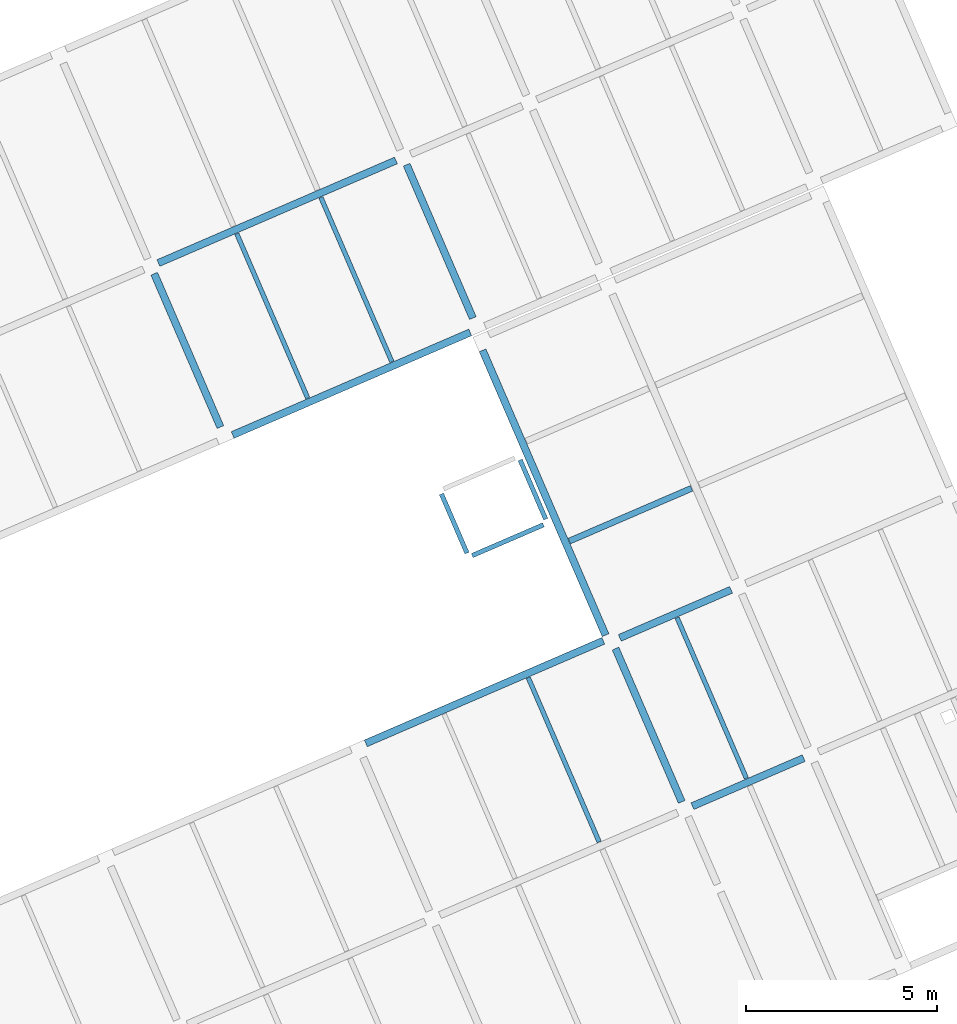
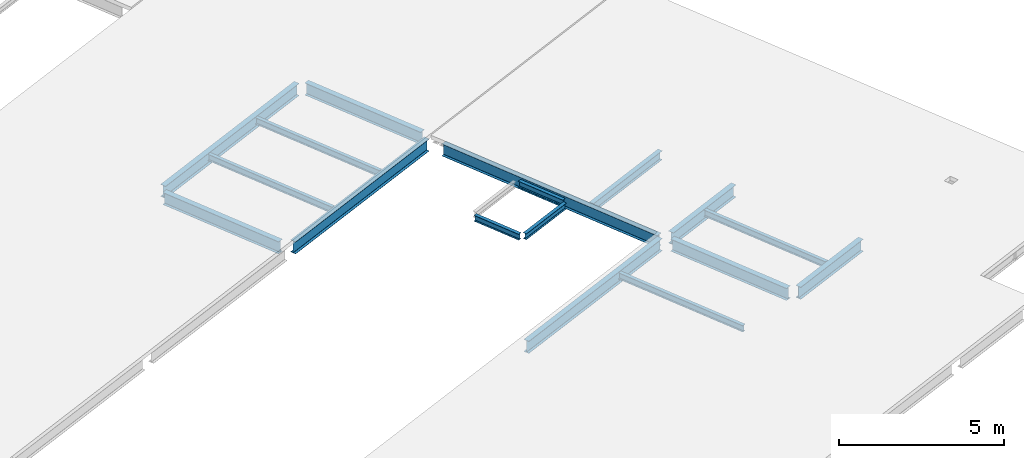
# One storey, part 6 of 15: 17 beams.
"""IFC4 building model written with IfcOpenShell, lengths in metres."""

from ifc_helpers import new_model, entity, si_unit, converted_unit, derived_unit, direction, frame, origin, place, context, subcontext, project, spatial, line, arc, indexed_curve, outline, extrude, source, transform, mapped, material, type_object, type_shapes, element, save


model = new_model("IFC4")

# Units and contexts
model_context = context("Model", 3, precision=1e-05, world=origin(), true_north=direction((6.12323399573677e-17, 1.0)))
body_context = subcontext(model_context, "Body", "Model", "MODEL_VIEW")
ifc_project = project(units=[si_unit("LENGTHUNIT", "METRE"), si_unit("AREAUNIT", "SQUARE_METRE"), si_unit("VOLUMEUNIT", "CUBIC_METRE"), converted_unit("PLANEANGLEUNIT", "DEGREE", entity("IfcPlaneAngleMeasure", 0.0174532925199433), si_unit("PLANEANGLEUNIT", "RADIAN"), dimensions=[0, 0, 0, 0, 0, 0, 0]), si_unit("MASSUNIT", "GRAM", prefix="KILO"), derived_unit("MOMENTOFINERTIAUNIT", [(si_unit("LENGTHUNIT", "METRE"), 4)]), derived_unit("LINEARFORCEUNIT", [(si_unit("MASSUNIT", "GRAM", prefix="KILO"), 1), (si_unit("TIMEUNIT", "SECOND"), -2)]), derived_unit("WARPINGCONSTANTUNIT", [(si_unit("LENGTHUNIT", "METRE"), 6)]), derived_unit("THERMALTRANSMITTANCEUNIT", [(si_unit("MASSUNIT", "GRAM", prefix="KILO"), 1), (si_unit("THERMODYNAMICTEMPERATUREUNIT", "KELVIN"), -1), (si_unit("TIMEUNIT", "SECOND"), -3)]), derived_unit("USERDEFINED", [(si_unit("MASSUNIT", "GRAM", prefix="KILO"), 1), (si_unit("TIMEUNIT", "SECOND"), -2), (si_unit("THERMODYNAMICTEMPERATUREUNIT", "KELVIN"), -1)]), derived_unit("THERMALRESISTANCEUNIT", [(si_unit("MASSUNIT", "GRAM", prefix="KILO"), -1), (si_unit("TIMEUNIT", "SECOND"), 3), (si_unit("THERMODYNAMICTEMPERATUREUNIT", "KELVIN"), 1)])], contexts=[model_context])

# Site, building, storey
site_placement = place(None, origin())
site = spatial("IfcSite", under=ifc_project, at=site_placement, Name="Default", CompositionType="ELEMENT")
building_placement = place(site_placement, frame((12.6613425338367, -82.5732315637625, 317.15), z_axis=(0.0, 0.0, 1.0), x_axis=(-0.396377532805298, 0.918087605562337, 0.0)))
building = spatial("IfcBuilding", under=site, at=building_placement, Name="CESFAM Coyhaique", CompositionType="ELEMENT")
storey_placement = place(building_placement, frame((0.0, 0.0, 8.45000000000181)))
storey = spatial("IfcBuildingStorey", under=building, at=storey_placement, Name="Nivel 3", CompositionType="ELEMENT", Elevation=8.45000000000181)

# Beams
ifc_material = material(Name="Steel, 45-345", Category="Metal")
beam_type_1 = type_object("IfcBeamType", Name="M_W Shapes:W450X190mm", PredefinedType="BEAM", material=ifc_material)
shared_shape_1 = source(origin(), body_context, "Body", "SweptSolid", [
    extrude(outline(indexed_curve([(-0.224999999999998, -0.0949999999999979), (-0.215349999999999, -0.0949999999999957), (-0.215349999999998, -0.0105699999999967), (-0.213109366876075, -0.00516063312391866), (-0.207699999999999, -0.0029199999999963), (0.207700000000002, -0.0029199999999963), (0.213109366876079, -0.00516063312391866), (0.215350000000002, -0.0105699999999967), (0.215350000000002, -0.0949999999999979), (0.225000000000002, -0.0949999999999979), (0.225000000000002, 0.0950000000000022), (0.215350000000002, 0.0950000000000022), (0.215350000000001, 0.0105700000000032), (0.213109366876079, 0.00516063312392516), (0.207700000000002, 0.0029200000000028), (-0.207699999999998, 0.0029200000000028), (-0.213109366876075, 0.00516063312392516), (-0.215349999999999, 0.0105700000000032), (-0.215349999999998, 0.0950000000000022), (-0.224999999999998, 0.0950000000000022)], segments=[line(1, 2, 3), arc(3, 4, 5), line(5, 6), arc(6, 7, 8), line(8, 9, 10, 11, 12, 13), arc(13, 14, 15), line(15, 16), arc(16, 17, 18), line(18, 19, 20, 1)], self_intersect=False)), frame((10.3815534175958, -11.5971495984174, 8.07500000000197), z_axis=(1.0, 0.0, 0.0), x_axis=(0.0, 0.0, -1.0)), (0.0, 0.0, 1.0), 4.3746),
])
type_shapes(beam_type_1, [shared_shape_1])
beam_1_placement = place(storey_placement, frame((0.0, 0.0, -8.45000000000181)))
element("IfcBeam", 1, at=beam_1_placement, inside=storey, type_object=beam_type_1, Name="M_W Shapes:W450X190mm", ObjectType="M_W Shapes:W450X190mm", PredefinedType="BEAM", context=body_context, shape_type="MappedRepresentation", body=[
    mapped(shared_shape_1, transform((0.0, 0.0, 0.0), scale=1.0)),
])
beam_type_2 = type_object("IfcBeamType", Name="M_W Shapes:W450X190mm", PredefinedType="BEAM", material=ifc_material)
shared_shape_2 = source(origin(), body_context, "Body", "SweptSolid", [
    extrude(outline(indexed_curve([(-0.224999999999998, -0.0950000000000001), (-0.215349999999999, -0.0949999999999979), (-0.215349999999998, -0.0105699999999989), (-0.213109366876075, -0.00516063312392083), (-0.207699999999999, -0.00291999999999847), (0.207700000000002, -0.00291999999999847), (0.213109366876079, -0.00516063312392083), (0.215350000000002, -0.0105699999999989), (0.215350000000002, -0.0950000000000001), (0.225000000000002, -0.0950000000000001), (0.225000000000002, 0.0950000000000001), (0.215350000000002, 0.0950000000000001), (0.215350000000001, 0.0105700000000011), (0.213109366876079, 0.00516063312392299), (0.207700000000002, 0.00292000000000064), (-0.207699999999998, 0.00292000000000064), (-0.213109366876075, 0.00516063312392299), (-0.215349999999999, 0.0105700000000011), (-0.215349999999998, 0.0950000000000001), (-0.224999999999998, 0.0950000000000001)], segments=[line(1, 2, 3), arc(3, 4, 5), line(5, 6), arc(6, 7, 8), line(8, 9, 10, 11, 12, 13), arc(13, 14, 15), line(15, 16), arc(16, 17, 18), line(18, 19, 20, 1)], self_intersect=False)), frame((15.1815534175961, -11.4971495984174, 8.07500000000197), z_axis=(1.0, 0.0, 0.0), x_axis=(0.0, 0.0, -1.0)), (0.0, 0.0, 1.0), 8.1246),
])
type_shapes(beam_type_2, [shared_shape_2])
beam_2_placement = place(storey_placement, frame((0.0, 0.0, -8.45000000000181)))
element("IfcBeam", 2, at=beam_2_placement, inside=storey, type_object=beam_type_2, Name="M_W Shapes:W450X190mm", ObjectType="M_W Shapes:W450X190mm", PredefinedType="BEAM", context=body_context, shape_type="MappedRepresentation", body=[
    mapped(shared_shape_2, transform((0.0, 0.0, 0.0), scale=1.0)),
])
beam_type_3 = type_object("IfcBeamType", Name="M_W Shapes:W450X190mm", PredefinedType="BEAM", material=ifc_material)
shared_shape_3 = source(origin(), body_context, "Body", "SweptSolid", [
    extrude(outline(indexed_curve([(-0.224999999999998, -0.0949999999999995), (-0.215349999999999, -0.0949999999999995), (-0.215349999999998, -0.0105699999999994), (-0.213109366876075, -0.00516063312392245), (-0.207699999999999, -0.00291999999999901), (0.207700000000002, -0.00291999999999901), (0.213109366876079, -0.00516063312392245), (0.215350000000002, -0.0105699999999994), (0.215350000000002, -0.0949999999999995), (0.225000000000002, -0.0949999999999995), (0.225000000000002, 0.0950000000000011), (0.215350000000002, 0.0950000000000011), (0.215350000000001, 0.0105700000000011), (0.213109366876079, 0.00516063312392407), (0.207700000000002, 0.00292000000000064), (-0.207699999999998, 0.00292000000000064), (-0.213109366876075, 0.00516063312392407), (-0.215349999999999, 0.0105700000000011), (-0.215349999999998, 0.0950000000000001), (-0.224999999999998, 0.0950000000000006)], segments=[line(1, 2, 3), arc(3, 4, 5), line(5, 6), arc(6, 7, 8), line(8, 9, 10, 11, 12, 13), arc(13, 14, 15), line(15, 16), arc(16, 17, 18), line(18, 19, 20, 1)], self_intersect=False)), frame((24.1815534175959, -4.39714959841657, 8.07500000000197), z_axis=(1.0, 0.0, 0.0), x_axis=(0.0, 0.0, -1.0)), (0.0, 0.0, 1.0), 4.3746),
])
type_shapes(beam_type_3, [shared_shape_3])
beam_3_placement = place(storey_placement, frame((0.0, 0.0, -8.45000000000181)))
element("IfcBeam", 3, at=beam_3_placement, inside=storey, type_object=beam_type_3, Name="M_W Shapes:W450X190mm", ObjectType="M_W Shapes:W450X190mm", PredefinedType="BEAM", context=body_context, shape_type="MappedRepresentation", body=[
    mapped(shared_shape_3, transform((0.0, 0.0, 0.0), scale=1.0)),
])
beam_type_4 = type_object("IfcBeamType", Name="M_W Shapes:W450X190mm", PredefinedType="BEAM", material=ifc_material)
shared_shape_4 = source(origin(), body_context, "Body", "SweptSolid", [
    extrude(outline(indexed_curve([(-0.224999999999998, -0.0949999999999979), (-0.215349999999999, -0.0949999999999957), (-0.215349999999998, -0.0105699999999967), (-0.213109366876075, -0.00516063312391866), (-0.207699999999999, -0.0029199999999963), (0.207700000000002, -0.0029199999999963), (0.213109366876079, -0.00516063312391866), (0.215350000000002, -0.0105699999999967), (0.215350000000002, -0.0949999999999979), (0.225000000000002, -0.0949999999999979), (0.225000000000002, 0.0950000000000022), (0.215350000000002, 0.0950000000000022), (0.215350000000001, 0.0105700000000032), (0.213109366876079, 0.00516063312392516), (0.207700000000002, 0.0029200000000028), (-0.207699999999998, 0.0029200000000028), (-0.213109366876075, 0.00516063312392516), (-0.215349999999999, 0.0105700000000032), (-0.215349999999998, 0.0950000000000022), (-0.224999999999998, 0.0950000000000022)], segments=[line(1, 2, 3), arc(3, 4, 5), line(5, 6), arc(6, 7, 8), line(8, 9, 10, 11, 12, 13), arc(13, 14, 15), line(15, 16), arc(16, 17, 18), line(18, 19, 20, 1)], self_intersect=False)), frame((24.1815534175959, -11.5971495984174, 8.07500000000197), z_axis=(1.0, 0.0, 0.0), x_axis=(0.0, 0.0, -1.0)), (0.0, 0.0, 1.0), 4.3746),
])
type_shapes(beam_type_4, [shared_shape_4])
beam_4_placement = place(storey_placement, frame((0.0, 0.0, -8.45000000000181)))
element("IfcBeam", 4, at=beam_4_placement, inside=storey, type_object=beam_type_4, Name="M_W Shapes:W450X190mm", ObjectType="M_W Shapes:W450X190mm", PredefinedType="BEAM", context=body_context, shape_type="MappedRepresentation", body=[
    mapped(shared_shape_4, transform((0.0, 0.0, 0.0), scale=1.0)),
])
beam_type_5 = type_object("IfcBeamType", Name="M_W Shapes:W450X190mm", PredefinedType="BEAM", material=ifc_material)
shared_shape_5 = source(origin(), body_context, "Body", "SweptSolid", [
    extrude(outline(indexed_curve([(-0.0950000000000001, -0.225000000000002), (0.0950000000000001, -0.225000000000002), (0.0950000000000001, -0.215350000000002), (0.0105700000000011, -0.215350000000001), (0.00516063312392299, -0.213109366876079), (0.00292000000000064, -0.207700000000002), (0.00292000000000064, 0.207699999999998), (0.00516063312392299, 0.213109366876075), (0.0105700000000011, 0.215349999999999), (0.0950000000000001, 0.215349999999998), (0.0950000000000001, 0.224999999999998), (-0.0950000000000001, 0.224999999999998), (-0.0949999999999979, 0.215349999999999), (-0.0105699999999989, 0.215349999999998), (-0.00516063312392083, 0.213109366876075), (-0.00291999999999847, 0.207699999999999), (-0.00291999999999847, -0.207700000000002), (-0.00516063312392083, -0.213109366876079), (-0.0105699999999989, -0.215350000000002), (-0.0950000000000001, -0.215350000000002)], segments=[line(1, 2, 3, 4), arc(4, 5, 6), line(6, 7), arc(7, 8, 9), line(9, 10, 11, 12, 13, 14), arc(14, 15, 16), line(16, 17), arc(17, 18, 19), line(19, 20, 1)], self_intersect=False)), frame((15.0688534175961, -11.384449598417, 8.07500000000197), z_axis=(0.0, 1.0, 0.0), x_axis=(-1.0, 0.0, 0.0)), (0.0, 0.0, 1.0), 6.7746),
])
type_shapes(beam_type_5, [shared_shape_5])
beam_5_placement = place(storey_placement, frame((0.0, 0.0, -8.45000000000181)))
element("IfcBeam", 5, at=beam_5_placement, inside=storey, type_object=beam_type_5, Name="M_W Shapes:W450X190mm", ObjectType="M_W Shapes:W450X190mm", PredefinedType="BEAM", context=body_context, shape_type="MappedRepresentation", body=[
    mapped(shared_shape_5, transform((0.0, 0.0, 0.0), scale=1.0)),
])
beam_type_6 = type_object("IfcBeamType", Name="M_W Shapes:W450X190mm", PredefinedType="BEAM", material=ifc_material)
shared_shape_6 = source(origin(), body_context, "Body", "SweptSolid", [
    extrude(outline(indexed_curve([(-0.0950000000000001, -0.225000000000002), (0.0950000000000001, -0.225000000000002), (0.0950000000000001, -0.215350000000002), (0.0105700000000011, -0.215350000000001), (0.00516063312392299, -0.213109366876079), (0.00292000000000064, -0.207700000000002), (0.00292000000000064, 0.207699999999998), (0.00516063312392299, 0.213109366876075), (0.0105700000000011, 0.215349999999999), (0.0950000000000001, 0.215349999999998), (0.0950000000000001, 0.224999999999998), (-0.0950000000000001, 0.224999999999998), (-0.0949999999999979, 0.215349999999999), (-0.0105699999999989, 0.215349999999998), (-0.00516063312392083, 0.213109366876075), (-0.00291999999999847, 0.207699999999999), (-0.00291999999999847, -0.207700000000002), (-0.00516063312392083, -0.213109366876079), (-0.0105699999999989, -0.215350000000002), (-0.0950000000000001, -0.215350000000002)], segments=[line(1, 2, 3, 4), arc(4, 5, 6), line(6, 7), arc(7, 8, 9), line(9, 10, 11, 12, 13, 14), arc(14, 15, 16), line(16, 17), arc(17, 18, 19), line(19, 20, 1)], self_intersect=False)), frame((10.1688534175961, -14.9844495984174, 8.07500000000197), z_axis=(0.0, 1.0, 0.0), x_axis=(-1.0, 0.0, 0.0)), (0.0, 0.0, 1.0), 3.1746),
])
type_shapes(beam_type_6, [shared_shape_6])
beam_6_placement = place(storey_placement, frame((0.0, 0.0, -8.45000000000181)))
element("IfcBeam", 6, at=beam_6_placement, inside=storey, type_object=beam_type_6, Name="M_W Shapes:W450X190mm", ObjectType="M_W Shapes:W450X190mm", PredefinedType="BEAM", context=body_context, shape_type="MappedRepresentation", body=[
    mapped(shared_shape_6, transform((0.0, 0.0, 0.0), scale=1.0)),
])
beam_type_7 = type_object("IfcBeamType", Name="M_W Shapes:W450X190mm", PredefinedType="BEAM", material=ifc_material)
shared_shape_7 = source(origin(), body_context, "Body", "SweptSolid", [
    extrude(outline(indexed_curve([(-0.0950000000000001, -0.225000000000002), (0.0950000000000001, -0.225000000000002), (0.0950000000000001, -0.215350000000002), (0.0105700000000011, -0.215350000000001), (0.00516063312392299, -0.213109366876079), (0.00292000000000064, -0.207700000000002), (0.00292000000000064, 0.207699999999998), (0.00516063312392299, 0.213109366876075), (0.0105700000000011, 0.215349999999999), (0.0950000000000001, 0.215349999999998), (0.0950000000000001, 0.224999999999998), (-0.0950000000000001, 0.224999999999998), (-0.0949999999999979, 0.215349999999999), (-0.0105699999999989, 0.215349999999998), (-0.00516063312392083, 0.213109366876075), (-0.00291999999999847, 0.207699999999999), (-0.00291999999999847, -0.207700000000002), (-0.00516063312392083, -0.213109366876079), (-0.0105699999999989, -0.215350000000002), (-0.0950000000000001, -0.215350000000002)], segments=[line(1, 2, 3, 4), arc(4, 5, 6), line(6, 7), arc(7, 8, 9), line(9, 10, 11, 12, 13, 14), arc(14, 15, 16), line(16, 17), arc(17, 18, 19), line(19, 20, 1)], self_intersect=False)), frame((14.9688534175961, -14.9844495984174, 8.07500000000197), z_axis=(0.0, 1.0, 0.0), x_axis=(-1.0, 0.0, 0.0)), (0.0, 0.0, 1.0), 3.1746),
])
type_shapes(beam_type_7, [shared_shape_7])
beam_7_placement = place(storey_placement, frame((0.0, 0.0, -8.45000000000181)))
element("IfcBeam", 7, at=beam_7_placement, inside=storey, type_object=beam_type_7, Name="M_W Shapes:W450X190mm", ObjectType="M_W Shapes:W450X190mm", PredefinedType="BEAM", context=body_context, shape_type="MappedRepresentation", body=[
    mapped(shared_shape_7, transform((0.0, 0.0, 0.0), scale=1.0)),
])
beam_type_8 = type_object("IfcBeamType", Name="M_W Shapes:W450X190mm", PredefinedType="BEAM", material=ifc_material)
shared_shape_8 = source(origin(), body_context, "Body", "SweptSolid", [
    extrude(outline(indexed_curve([(-0.0950000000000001, -0.225000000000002), (0.0950000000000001, -0.225000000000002), (0.0950000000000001, -0.215350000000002), (0.0105699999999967, -0.215350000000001), (0.00516063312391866, -0.21310936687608), (0.00291999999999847, -0.207700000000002), (0.00291999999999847, 0.207699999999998), (0.00516063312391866, 0.213109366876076), (0.0105700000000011, 0.215349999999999), (0.0950000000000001, 0.215349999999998), (0.0950000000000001, 0.224999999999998), (-0.0950000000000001, 0.224999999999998), (-0.0950000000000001, 0.215349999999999), (-0.0105700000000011, 0.215349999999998), (-0.00516063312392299, 0.213109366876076), (-0.0029200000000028, 0.207699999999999), (-0.0029200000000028, -0.207700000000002), (-0.00516063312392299, -0.21310936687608), (-0.0105700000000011, -0.215350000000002), (-0.0950000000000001, -0.215350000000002)], segments=[line(1, 2, 3, 4), arc(4, 5, 6), line(6, 7), arc(7, 8, 9), line(9, 10, 11, 12, 13, 14), arc(14, 15, 16), line(16, 17), arc(17, 18, 19), line(19, 20, 1)], self_intersect=False)), frame((23.8638534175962, -11.384449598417, 8.07500000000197), z_axis=(0.0, 1.0, 0.0), x_axis=(-1.0, 0.0, 0.0)), (0.0, 0.0, 1.0), 6.7746),
])
type_shapes(beam_type_8, [shared_shape_8])
beam_8_placement = place(storey_placement, frame((0.0, 0.0, -8.45000000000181)))
element("IfcBeam", 8, at=beam_8_placement, inside=storey, type_object=beam_type_8, Name="M_W Shapes:W450X190mm", ObjectType="M_W Shapes:W450X190mm", PredefinedType="BEAM", context=body_context, shape_type="MappedRepresentation", body=[
    mapped(shared_shape_8, transform((0.0, 0.0, 0.0), scale=1.0)),
])
beam_type_9 = type_object("IfcBeamType", Name="M_W Shapes:W450X190mm", PredefinedType="BEAM", material=ifc_material)
shared_shape_9 = source(origin(), body_context, "Body", "SweptSolid", [
    extrude(outline(indexed_curve([(-0.0950000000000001, -0.225000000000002), (0.0950000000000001, -0.225000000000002), (0.0950000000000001, -0.215350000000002), (0.0105699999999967, -0.215350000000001), (0.00516063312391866, -0.21310936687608), (0.00291999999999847, -0.207700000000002), (0.00291999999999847, 0.207699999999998), (0.00516063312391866, 0.213109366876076), (0.0105700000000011, 0.215349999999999), (0.0950000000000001, 0.215349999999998), (0.0950000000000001, 0.224999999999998), (-0.0950000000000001, 0.224999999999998), (-0.0950000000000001, 0.215349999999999), (-0.0105700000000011, 0.215349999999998), (-0.00516063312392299, 0.213109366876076), (-0.0029200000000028, 0.207699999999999), (-0.0029200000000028, -0.207700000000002), (-0.00516063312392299, -0.21310936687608), (-0.0105700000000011, -0.215350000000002), (-0.0950000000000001, -0.215350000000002)], segments=[line(1, 2, 3, 4), arc(4, 5, 6), line(6, 7), arc(7, 8, 9), line(9, 10, 11, 12, 13, 14), arc(14, 15, 16), line(16, 17), arc(17, 18, 19), line(19, 20, 1)], self_intersect=False)), frame((28.7688534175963, -11.384449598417, 8.07500000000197), z_axis=(0.0, 1.0, 0.0), x_axis=(-1.0, 0.0, 0.0)), (0.0, 0.0, 1.0), 6.7746),
])
type_shapes(beam_type_9, [shared_shape_9])
beam_9_placement = place(storey_placement, frame((0.0, 0.0, -8.45000000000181)))
element("IfcBeam", 9, at=beam_9_placement, inside=storey, type_object=beam_type_9, Name="M_W Shapes:W450X190mm", ObjectType="M_W Shapes:W450X190mm", PredefinedType="BEAM", context=body_context, shape_type="MappedRepresentation", body=[
    mapped(shared_shape_9, transform((0.0, 0.0, 0.0), scale=1.0)),
])
beam_type_10 = type_object("IfcBeamType", Name="M_W Shapes:W240X120mm", PredefinedType="BEAM", material=ifc_material)
shared_shape_10 = source(origin(), body_context, "Body", "SweptSolid", [
    extrude(outline(indexed_curve([(-0.12, -0.0599999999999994), (-0.110350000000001, -0.0599999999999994), (-0.110350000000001, -0.0105699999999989), (-0.108109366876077, -0.00516063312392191), (-0.1027, -0.00291999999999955), (0.102699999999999, -0.00291999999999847), (0.108109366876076, -0.00516063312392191), (0.110349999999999, -0.0105699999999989), (0.11035, -0.0599999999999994), (0.12, -0.0599999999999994), (0.12, 0.0600000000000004), (0.110349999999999, 0.0600000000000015), (0.11035, 0.0105700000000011), (0.108109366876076, 0.00516063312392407), (0.102699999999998, 0.00292000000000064), (-0.1027, 0.00292000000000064), (-0.108109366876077, 0.00516063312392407), (-0.110350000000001, 0.01057), (-0.11035, 0.0600000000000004), (-0.12, 0.0599999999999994)], segments=[line(1, 2, 3), arc(3, 4, 5), line(5, 6), arc(6, 7, 8), line(8, 9, 10, 11, 12, 13), arc(13, 14, 15), line(15, 16), arc(16, 17, 18), line(18, 19, 20, 1)], self_intersect=False)), frame((10.2765534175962, -9.19714959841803, 8.18000000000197), z_axis=(1.0, 0.0, 0.0), x_axis=(0.0, 0.0, -1.0)), (0.0, 0.0, 1.0), 4.6846),
])
type_shapes(beam_type_10, [shared_shape_10])
beam_10_placement = place(storey_placement, frame((0.0, 0.0, -8.45000000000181)))
element("IfcBeam", 10, at=beam_10_placement, inside=storey, type_object=beam_type_10, Name="M_W Shapes:W240X120mm", ObjectType="M_W Shapes:W240X120mm", PredefinedType="BEAM", context=body_context, shape_type="MappedRepresentation", body=[
    mapped(shared_shape_10, transform((0.0, 0.0, 0.0), scale=1.0)),
])
beam_type_11 = type_object("IfcBeamType", Name="M_W Shapes:W240X120mm", PredefinedType="BEAM", material=ifc_material)
shared_shape_11 = source(origin(), body_context, "Body", "SweptSolid", [
    extrude(outline(indexed_curve([(-0.119999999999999, -0.0600000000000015), (-0.11035, -0.0600000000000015), (-0.110349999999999, -0.0105700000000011), (-0.108109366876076, -0.00516063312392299), (-0.102699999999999, -0.00292000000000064), (0.1027, -0.00292000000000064), (0.108109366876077, -0.00516063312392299), (0.11035, -0.0105700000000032), (0.110350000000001, -0.0600000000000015), (0.120000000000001, -0.0600000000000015), (0.120000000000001, 0.0599999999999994), (0.11035, 0.0599999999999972), (0.11035, 0.0105699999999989), (0.108109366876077, 0.00516063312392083), (0.102699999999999, 0.00291999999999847), (-0.102699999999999, 0.00291999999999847), (-0.108109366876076, 0.00516063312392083), (-0.11035, 0.0105699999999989), (-0.110349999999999, 0.0599999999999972), (-0.119999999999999, 0.0599999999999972)], segments=[line(1, 2, 3), arc(3, 4, 5), line(5, 6), arc(6, 7, 8), line(8, 9, 10, 11, 12, 13), arc(13, 14, 15), line(15, 16), arc(16, 17, 18), line(18, 19, 20, 1)], self_intersect=False)), frame((10.2765534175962, -13.3971495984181, 8.18000000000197), z_axis=(1.0, 0.0, 0.0), x_axis=(0.0, 0.0, -1.0)), (0.0, 0.0, 1.0), 4.5846),
])
type_shapes(beam_type_11, [shared_shape_11])
beam_11_placement = place(storey_placement, frame((0.0, 0.0, -8.45000000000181)))
element("IfcBeam", 11, at=beam_11_placement, inside=storey, type_object=beam_type_11, Name="M_W Shapes:W240X120mm", ObjectType="M_W Shapes:W240X120mm", PredefinedType="BEAM", context=body_context, shape_type="MappedRepresentation", body=[
    mapped(shared_shape_11, transform((0.0, 0.0, 0.0), scale=1.0)),
])
beam_type_12 = type_object("IfcBeamType", Name="M_W Shapes:W240X120mm", PredefinedType="BEAM", material=ifc_material)
shared_shape_12 = source(origin(), body_context, "Body", "SweptSolid", [
    extrude(outline(indexed_curve([(-0.12, -0.0600000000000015), (-0.110350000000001, -0.0600000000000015), (-0.110350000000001, -0.0105700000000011), (-0.108109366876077, -0.00516063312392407), (-0.1027, -0.00292000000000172), (0.102699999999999, -0.00292000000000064), (0.108109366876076, -0.00516063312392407), (0.110349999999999, -0.0105700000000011), (0.11035, -0.0600000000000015), (0.12, -0.0600000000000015), (0.12, 0.0599999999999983), (0.110349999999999, 0.0599999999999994), (0.11035, 0.0105699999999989), (0.108109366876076, 0.00516063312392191), (0.102699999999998, 0.00291999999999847), (-0.1027, 0.00291999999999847), (-0.108109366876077, 0.00516063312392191), (-0.110350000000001, 0.0105699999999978), (-0.11035, 0.0599999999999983), (-0.12, 0.0599999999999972)], segments=[line(1, 2, 3), arc(3, 4, 5), line(5, 6), arc(6, 7, 8), line(8, 9, 10, 11, 12, 13), arc(13, 14, 15), line(15, 16), arc(16, 17, 18), line(18, 19, 20, 1)], self_intersect=False)), frame((23.9715534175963, -6.79727015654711, 8.18000000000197), z_axis=(1.0, 0.0, 0.0), x_axis=(0.0, 0.0, -1.0)), (0.0, 0.0, 1.0), 4.6896),
])
type_shapes(beam_type_12, [shared_shape_12])
beam_12_placement = place(storey_placement, frame((0.0, 0.0, -8.45000000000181)))
element("IfcBeam", 12, at=beam_12_placement, inside=storey, type_object=beam_type_12, Name="M_W Shapes:W240X120mm", ObjectType="M_W Shapes:W240X120mm", PredefinedType="BEAM", context=body_context, shape_type="MappedRepresentation", body=[
    mapped(shared_shape_12, transform((0.0, 0.0, 0.0), scale=1.0)),
])
beam_type_13 = type_object("IfcBeamType", Name="M_W Shapes:W240X120mm", PredefinedType="BEAM", material=ifc_material)
shared_shape_13 = source(origin(), body_context, "Body", "SweptSolid", [
    extrude(outline(indexed_curve([(-0.12, -0.0600000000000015), (-0.110350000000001, -0.0600000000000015), (-0.110350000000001, -0.0105700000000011), (-0.108109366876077, -0.00516063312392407), (-0.1027, -0.00292000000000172), (0.102699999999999, -0.00292000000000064), (0.108109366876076, -0.00516063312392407), (0.110349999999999, -0.0105700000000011), (0.11035, -0.0600000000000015), (0.12, -0.0600000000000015), (0.12, 0.0599999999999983), (0.110349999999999, 0.0599999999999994), (0.11035, 0.0105699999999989), (0.108109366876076, 0.00516063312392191), (0.102699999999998, 0.00291999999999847), (-0.1027, 0.00291999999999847), (-0.108109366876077, 0.00516063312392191), (-0.110350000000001, 0.0105699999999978), (-0.11035, 0.0599999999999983), (-0.12, 0.0599999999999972)], segments=[line(1, 2, 3), arc(3, 4, 5), line(5, 6), arc(6, 7, 8), line(8, 9, 10, 11, 12, 13), arc(13, 14, 15), line(15, 16), arc(16, 17, 18), line(18, 19, 20, 1)], self_intersect=False)), frame((23.9715534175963, -9.19727015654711, 8.18000000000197), z_axis=(1.0, 0.0, 0.0), x_axis=(0.0, 0.0, -1.0)), (0.0, 0.0, 1.0), 4.6896),
])
type_shapes(beam_type_13, [shared_shape_13])
beam_13_placement = place(storey_placement, frame((0.0, 0.0, -8.45000000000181)))
element("IfcBeam", 13, at=beam_13_placement, inside=storey, type_object=beam_type_13, Name="M_W Shapes:W240X120mm", ObjectType="M_W Shapes:W240X120mm", PredefinedType="BEAM", context=body_context, shape_type="MappedRepresentation", body=[
    mapped(shared_shape_13, transform((0.0, 0.0, 0.0), scale=1.0)),
])
beam_type_14 = type_object("IfcBeamType", Name="M_W Shapes:W330X160mm", PredefinedType="BEAM", material=ifc_material)
shared_shape_14 = source(origin(), body_context, "Body", "SweptSolid", [
    extrude(outline(indexed_curve([(-0.0800000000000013, -0.165), (0.0799999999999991, -0.164999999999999), (0.079999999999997, -0.155349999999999), (0.0105699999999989, -0.155349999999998), (0.00516063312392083, -0.153109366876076), (0.00291999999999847, -0.147699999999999), (0.00291999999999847, 0.147700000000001), (0.00516063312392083, 0.153109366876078), (0.0105699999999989, 0.15535), (0.0799999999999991, 0.15535), (0.079999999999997, 0.165), (-0.0800000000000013, 0.165), (-0.0800000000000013, 0.15535), (-0.0105700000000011, 0.15535), (-0.00516063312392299, 0.153109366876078), (-0.00292000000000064, 0.147700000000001), (-0.00292000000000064, -0.147699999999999), (-0.00516063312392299, -0.153109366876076), (-0.0105700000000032, -0.155349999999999), (-0.0800000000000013, -0.155349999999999)], segments=[line(1, 2, 3, 4), arc(4, 5, 6), line(6, 7), arc(7, 8, 9), line(9, 10, 11, 12, 13, 14), arc(14, 15, 16), line(16, 17), arc(17, 18, 19), line(19, 20, 1)], self_intersect=False)), frame((17.8188534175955, -15.0894495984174, 8.13500000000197), z_axis=(0.0, 1.0, 0.0), x_axis=(-1.0, 0.0, 0.0)), (0.0, 0.0, 1.0), 3.4846),
])
type_shapes(beam_type_14, [shared_shape_14])
beam_14_placement = place(storey_placement, frame((0.0, 0.0, -8.45000000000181)))
element("IfcBeam", 14, at=beam_14_placement, inside=storey, type_object=beam_type_14, Name="M_W Shapes:W330X160mm", ObjectType="M_W Shapes:W330X160mm", PredefinedType="BEAM", context=body_context, shape_type="MappedRepresentation", body=[
    mapped(shared_shape_14, transform((0.0, 0.0, 0.0), scale=1.0)),
])
beam_type_15 = type_object("IfcBeamType", Name="M_W Shapes:W220X120mm", PredefinedType="BEAM", material=ifc_material)
shared_shape_15 = source(origin(), body_context, "Body", "SweptSolid", [
    extrude(outline(indexed_curve([(-0.110000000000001, -0.0599999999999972), (-0.100350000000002, -0.0599999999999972), (-0.100350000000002, -0.0105699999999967), (-0.0981093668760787, -0.00516063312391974), (-0.0927000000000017, -0.00291999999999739), (0.0926999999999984, -0.0029199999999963), (0.0981093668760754, -0.00516063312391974), (0.100349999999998, -0.0105699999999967), (0.100349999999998, -0.0599999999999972), (0.109999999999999, -0.0599999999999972), (0.109999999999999, 0.0600000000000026), (0.100349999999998, 0.0600000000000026), (0.100349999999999, 0.0105700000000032), (0.0981093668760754, 0.00516063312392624), (0.0926999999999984, 0.0029200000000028), (-0.0927000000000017, 0.0029200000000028), (-0.0981093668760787, 0.00516063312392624), (-0.100350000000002, 0.0105700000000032), (-0.100350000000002, 0.0600000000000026), (-0.110000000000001, 0.0600000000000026)], segments=[line(1, 2, 3), arc(3, 4, 5), line(5, 6), arc(6, 7, 8), line(8, 9, 10, 11, 12, 13), arc(13, 14, 15), line(15, 16), arc(16, 17, 18), line(18, 19, 20, 1)], self_intersect=False)), frame((18.5918165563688, -9.01714975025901, 8.19000000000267), z_axis=(1.0, 0.0, 0.0), x_axis=(0.0, 0.0, -1.0)), (0.0, 0.0, 1.0), 1.6871),
])
type_shapes(beam_type_15, [shared_shape_15])
beam_15_placement = place(storey_placement, frame((0.0, 0.0, -8.45000000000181)))
element("IfcBeam", 15, at=beam_15_placement, inside=storey, type_object=beam_type_15, Name="M_W Shapes:W220X120mm", ObjectType="M_W Shapes:W220X120mm", PredefinedType="BEAM", context=body_context, shape_type="MappedRepresentation", body=[
    mapped(shared_shape_15, transform((0.0, 0.0, 0.0), scale=1.0)),
])
beam_type_16 = type_object("IfcBeamType", Name="M_W Shapes:W220X120mm", PredefinedType="BEAM", material=ifc_material)
shared_shape_16 = source(origin(), body_context, "Body", "SweptSolid", [
    extrude(outline(indexed_curve([(-0.0599999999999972, -0.11), (0.0600000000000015, -0.11), (0.0600000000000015, -0.100350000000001), (0.0105700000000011, -0.10035), (0.00516063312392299, -0.0981093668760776), (0.00292000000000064, -0.0927000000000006), (0.00292000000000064, 0.0926999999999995), (0.00516063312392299, 0.0981093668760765), (0.0105700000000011, 0.100349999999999), (0.0600000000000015, 0.100349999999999), (0.0600000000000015, 0.11), (-0.0599999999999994, 0.11), (-0.0599999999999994, 0.100349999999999), (-0.0105699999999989, 0.100349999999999), (-0.00516063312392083, 0.0981093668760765), (-0.00291999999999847, 0.0926999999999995), (-0.00291999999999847, -0.0927000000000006), (-0.00516063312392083, -0.0981093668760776), (-0.0105699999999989, -0.100350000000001), (-0.0599999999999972, -0.100350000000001)], segments=[line(1, 2, 3, 4), arc(4, 5, 6), line(6, 7), arc(7, 8, 9), line(9, 10, 11, 12, 13, 14), arc(14, 15, 16), line(16, 17), arc(17, 18, 19), line(19, 20, 1)], self_intersect=False)), frame((18.4790184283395, -9.117149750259, 8.19000000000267), z_axis=(0.0, -1.0, 0.0), x_axis=(-1.0, 0.0, 0.0)), (0.0, 0.0, 1.0), 2.0323),
])
type_shapes(beam_type_16, [shared_shape_16])
beam_16_placement = place(storey_placement, frame((0.0, 0.0, -8.45000000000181)))
element("IfcBeam", 16, at=beam_16_placement, inside=storey, type_object=beam_type_16, Name="M_W Shapes:W220X120mm", ObjectType="M_W Shapes:W220X120mm", PredefinedType="BEAM", context=body_context, shape_type="MappedRepresentation", body=[
    mapped(shared_shape_16, transform((0.0, 0.0, 0.0), scale=1.0)),
])
beam_type_17 = type_object("IfcBeamType", Name="M_W Shapes:W220X120mm", PredefinedType="BEAM", material=ifc_material)
shared_shape_17 = source(origin(), body_context, "Body", "SweptSolid", [
    extrude(outline(indexed_curve([(-0.110000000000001, -0.0599999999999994), (-0.100350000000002, -0.0599999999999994), (-0.100350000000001, -0.0105699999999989), (-0.0981093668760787, -0.00516063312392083), (-0.0927000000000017, -0.00291999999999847), (0.0926999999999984, -0.00291999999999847), (0.0981093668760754, -0.00516063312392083), (0.100349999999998, -0.0105699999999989), (0.100349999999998, -0.0599999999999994), (0.109999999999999, -0.0599999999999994), (0.109999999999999, 0.0600000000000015), (0.100349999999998, 0.0600000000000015), (0.100349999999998, 0.0105700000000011), (0.0981093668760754, 0.00516063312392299), (0.0926999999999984, 0.00292000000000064), (-0.0927000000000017, 0.00292000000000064), (-0.0981093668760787, 0.00516063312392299), (-0.100350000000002, 0.0105700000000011), (-0.100350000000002, 0.0599999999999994), (-0.110000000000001, 0.0599999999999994)], segments=[line(1, 2, 3), arc(3, 4, 5), line(5, 6), arc(6, 7, 8), line(8, 9, 10, 11, 12, 13), arc(13, 14, 15), line(15, 16), arc(16, 17, 18), line(18, 19, 20, 1)], self_intersect=False)), frame((18.5917240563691, -11.262149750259, 8.19000000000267), z_axis=(1.0, 0.0, 0.0), x_axis=(0.0, 0.0, -1.0)), (0.0, 0.0, 1.0), 1.6872),
])
type_shapes(beam_type_17, [shared_shape_17])
beam_17_placement = place(storey_placement, frame((0.0, 0.0, -8.45000000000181)))
element("IfcBeam", 17, at=beam_17_placement, inside=storey, type_object=beam_type_17, Name="M_W Shapes:W220X120mm", ObjectType="M_W Shapes:W220X120mm", PredefinedType="BEAM", context=body_context, shape_type="MappedRepresentation", body=[
    mapped(shared_shape_17, transform((0.0, 0.0, 0.0), scale=1.0)),
])

save(model, "model.ifc")
